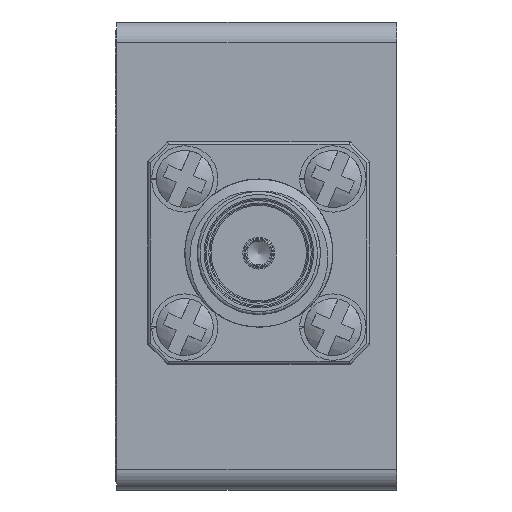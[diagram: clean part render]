
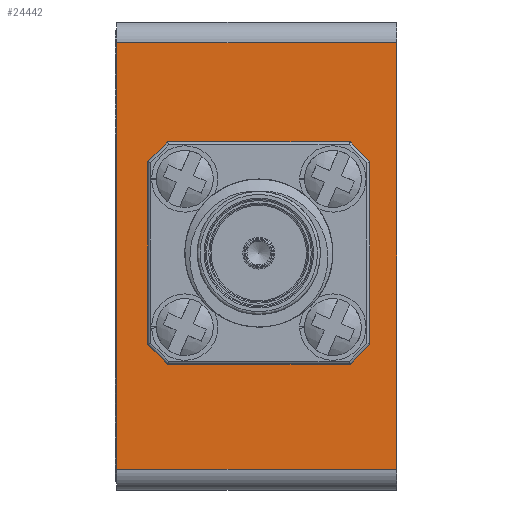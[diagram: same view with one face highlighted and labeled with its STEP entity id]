
A CAD part, left-side view. The second image highlights one B-rep face of the part: STEP entity #24442.
In plain terms, the highlighted planar face has unit normal (-1, 0, 0).
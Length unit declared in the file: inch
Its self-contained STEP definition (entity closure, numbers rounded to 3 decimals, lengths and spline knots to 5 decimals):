
#896 = DIRECTION ( 'NONE',  ( 0., 0., 1. ) ) ;
#1062 = ORIENTED_EDGE ( 'NONE', *, *, #26287, .F. ) ;
#2764 = AXIS2_PLACEMENT_3D ( 'NONE', #15738, #21046, #26516 ) ;
#3847 = VERTEX_POINT ( 'NONE', #4937 ) ;
#4937 = CARTESIAN_POINT ( 'NONE',  ( -1.28, 0.23622, 0.36 ) ) ;
#5141 = CARTESIAN_POINT ( 'NONE',  ( -1.28, 0.23622, 0.36 ) ) ;
#5173 = VERTEX_POINT ( 'NONE', #13994 ) ;
#6130 = CARTESIAN_POINT ( 'NONE',  ( -1.28, -0.23622, 0.36 ) ) ;
#6443 = ORIENTED_EDGE ( 'NONE', *, *, #16848, .T. ) ;
#6469 = DIRECTION ( 'NONE',  ( 0., -1., 0. ) ) ;
#6566 = LINE ( 'NONE', #27414, #23946 ) ;
#8255 = PLANE ( 'NONE',  #2764 ) ;
#8543 = VERTEX_POINT ( 'NONE', #6130 ) ;
#8608 = FACE_OUTER_BOUND ( 'NONE', #24818, .T. ) ;
#9487 = VECTOR ( 'NONE', #28259, 39.37008 ) ;
#10253 = EDGE_CURVE ( 'NONE', #17330, #8543, #6566, .T. ) ;
#12798 = ORIENTED_EDGE ( 'NONE', *, *, #10253, .T. ) ;
#13076 = CARTESIAN_POINT ( 'NONE',  ( -1.28, -0.23622, -0.36 ) ) ;
#13994 = CARTESIAN_POINT ( 'NONE',  ( -1.28, 0.23622, -0.36 ) ) ;
#14008 = DIRECTION ( 'NONE',  ( 0., 0., 1. ) ) ;
#14119 = CARTESIAN_POINT ( 'NONE',  ( -1.28, 0.23622, -0.36 ) ) ;
#15449 = VECTOR ( 'NONE', #14008, 39.37008 ) ;
#15738 = CARTESIAN_POINT ( 'NONE',  ( -1.28, 0.23622, 0.36 ) ) ;
#16732 = LINE ( 'NONE', #14119, #24842 ) ;
#16848 = EDGE_CURVE ( 'NONE', #5173, #17330, #16732, .T. ) ;
#17330 = VERTEX_POINT ( 'NONE', #13076 ) ;
#19354 = CARTESIAN_POINT ( 'NONE',  ( -1.28, 0.23622, 0.36 ) ) ;
#21046 = DIRECTION ( 'NONE',  ( 1., 0., 0. ) ) ;
#22559 = LINE ( 'NONE', #19354, #15449 ) ;
#23946 = VECTOR ( 'NONE', #896, 39.37008 ) ;
#24442 = ADVANCED_FACE ( 'NONE', ( #8608 ), #8255, .F. ) ;
#24818 = EDGE_LOOP ( 'NONE', ( #12798, #1062, #32851, #6443 ) ) ;
#24842 = VECTOR ( 'NONE', #6469, 39.37008 ) ;
#26287 = EDGE_CURVE ( 'NONE', #3847, #8543, #30696, .T. ) ;
#26513 = EDGE_CURVE ( 'NONE', #5173, #3847, #22559, .T. ) ;
#26516 = DIRECTION ( 'NONE',  ( 0., 0., -1. ) ) ;
#27414 = CARTESIAN_POINT ( 'NONE',  ( -1.28, -0.23622, 0.36 ) ) ;
#28259 = DIRECTION ( 'NONE',  ( 0., -1., 0. ) ) ;
#30696 = LINE ( 'NONE', #5141, #9487 ) ;
#32851 = ORIENTED_EDGE ( 'NONE', *, *, #26513, .F. ) ;
